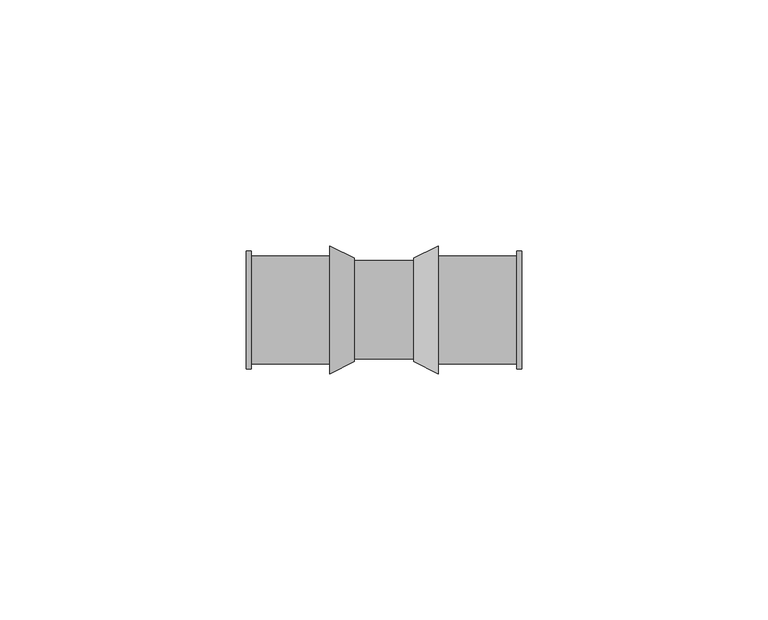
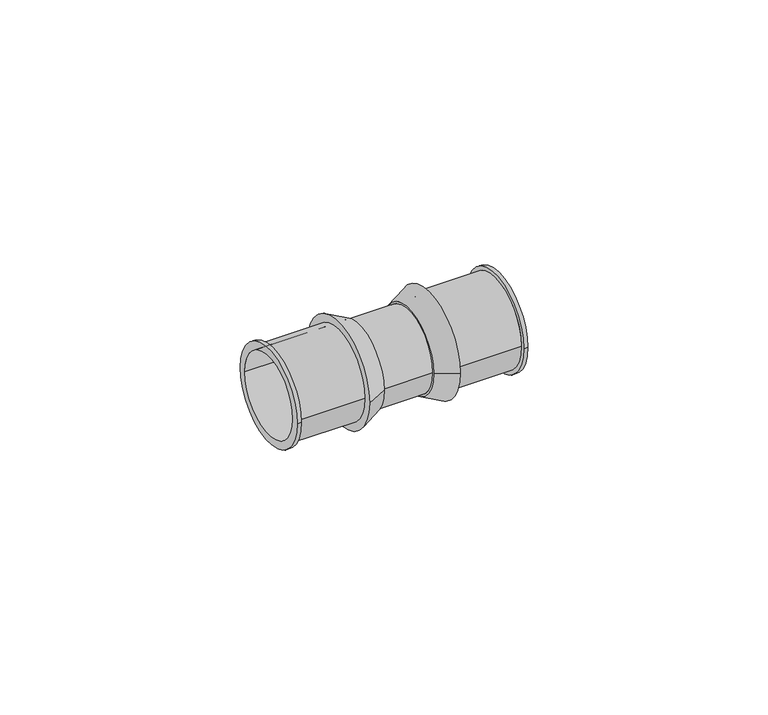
"""IFC4 building model written with IfcOpenShell, lengths in millimetres: pipe fitting geometry, SuperPipe_Coupling_SPressPlus : SuperPipe_Coupling_SPressPlus."""

from ifc_helpers import new_model, si_unit, point, frame, origin, origin_2d, place, context, project, spatial, polyline, circle_curve, trimmed, segment, composite_curve, outline, extrude, source, transform, mapped, element, save
from ifc_brep_helpers import plane_surface, cylinder_surface, revolved_surface, advanced_brep


def pipe_fitting_ede8caec(model_context):
    return source(origin(), model_context, "Body", "SolidModel", [
        advanced_brep(
        [(-28.0, -12.0, 0.0), (-28.0, 12.0, 0.0), (-28.0, -10.0, 0.0), (-28.0, 10.0, 0.0), (-11.0, -11.0, 0.0), (-11.0, 11.0, 0.0), (-11.0, -10.0, 0.0), (-11.0, 10.0, 0.0), (-27.0, -10.0, 0.0), (-27.0, 10.0, 0.0), (-27.0, 11.0, 0.0), (-27.0, -11.0, 0.0), (-27.0, -12.0, 0.0), (-27.0, 12.0, 0.0)],
        [
            (0, 1, circle_curve(frame((-28.0, 0.0, 0.0), z_axis=(-1.0, 0.0, 0.0), x_axis=(0.0, 1.0, 0.0)), 12.0)),
            (1, 0, circle_curve(frame((-28.0, 0.0, 0.0), z_axis=(-1.0, 0.0, 0.0), x_axis=(0.0, 1.0, 0.0)), 12.0)),
            (2, 3, circle_curve(frame((-28.0, 0.0, 0.0), z_axis=(1.0, 0.0, 0.0), x_axis=(0.0, 1.0, 0.0)), 10.0)),
            (3, 2, circle_curve(frame((-28.0, 0.0, 0.0), z_axis=(1.0, 0.0, 0.0), x_axis=(0.0, 1.0, 0.0)), 10.0)),
            (4, 5, circle_curve(frame((-11.0, 0.0, 0.0), z_axis=(1.0, 0.0, 0.0), x_axis=(0.0, 1.0, 0.0)), 11.0)),
            (5, 4, circle_curve(frame((-11.0, 0.0, 0.0), z_axis=(1.0, 0.0, 0.0), x_axis=(0.0, 1.0, 0.0)), 11.0)),
            (6, 7, circle_curve(frame((-11.0, 0.0, 0.0), z_axis=(-1.0, 0.0, 0.0), x_axis=(0.0, 1.0, 0.0)), 10.0)),
            (7, 6, circle_curve(frame((-11.0, 0.0, 0.0), z_axis=(-1.0, 0.0, 0.0), x_axis=(0.0, 1.0, 0.0)), 10.0)),
            (2, 8),
            (8, 6),
            (7, 9),
            (9, 3),
            (5, 10),
            (10, 11, circle_curve(frame((-27.0, 0.0, 0.0), z_axis=(1.0, 0.0, 0.0), x_axis=(0.0, 1.0, 0.0)), 11.0)),
            (11, 4),
            (11, 10, circle_curve(frame((-27.0, 0.0, 0.0), z_axis=(1.0, 0.0, 0.0), x_axis=(0.0, 1.0, 0.0)), 11.0)),
            (12, 13, circle_curve(frame((-27.0, 0.0, 0.0), z_axis=(1.0, 0.0, 0.0), x_axis=(0.0, 1.0, 0.0)), 12.0)),
            (13, 12, circle_curve(frame((-27.0, 0.0, 0.0), z_axis=(1.0, 0.0, 0.0), x_axis=(0.0, 1.0, 0.0)), 12.0)),
            (0, 12),
            (13, 1),
        ],
        [
            plane_surface(frame((-28.0, 0.0, 0.0), z_axis=(-1.0, 0.0, 0.0), x_axis=(0.0, 0.0, 1.0))),
            plane_surface(frame((-11.0, 0.0, 0.0), z_axis=(1.0, 0.0, 0.0), x_axis=(0.0, 0.0, 1.0))),
            revolved_surface(polyline([(-11.0, 10.0, 0.0), (-28.0, 10.0, 0.0)]), (-28.0, 0.0, 0.0), (1.0, 0.0, 0.0)),
            cylinder_surface(frame((-28.0, 0.0, 0.0), z_axis=(-1.0, 0.0, 0.0), x_axis=(0.0, 1.0, 0.0)), 11.0),
            plane_surface(frame((-27.0, 0.0, 0.0), z_axis=(1.0, 0.0, 0.0), x_axis=(0.0, 0.0, 1.0))),
            cylinder_surface(frame((-28.0, 0.0, 0.0), z_axis=(-1.0, 0.0, 0.0), x_axis=(0.0, 1.0, 0.0)), 12.0),
        ],
        [
            (0, [[1, 2], [3, 4]]),
            (1, [[5, 6], [7, 8]]),
            (2, [[-3, 9, 10, -8, 11, 12]]),
            (2, [[-4, -12, -11, -7, -10, -9]]),
            (3, [[-6, 13, 14, 15]]),
            (3, [[-5, -15, 16, -13]]),
            (4, [[17, 18], [-14, -16]]),
            (5, [[-1, 19, -18, 20]]),
            (5, [[-2, -20, -17, -19]]),
        ],
    ),
        advanced_brep(
        [(11.0, -11.0, 0.0), (11.0, 11.0, 0.0), (11.0, -10.0, 0.0), (11.0, 10.0, 0.0), (28.0, -12.0, 0.0), (28.0, 12.0, 0.0), (28.0, -10.0, 0.0), (28.0, 10.0, 0.0), (27.0, -11.0, 0.0), (27.0, 11.0, 0.0), (27.0, -10.0, 0.0), (27.0, 10.0, 0.0), (27.0, -12.0, 0.0), (27.0, 12.0, 0.0)],
        [
            (0, 1, circle_curve(frame((11.0, 0.0, 0.0), z_axis=(-1.0, 0.0, 0.0), x_axis=(0.0, 1.0, 0.0)), 11.0)),
            (1, 0, circle_curve(frame((11.0, 0.0, 0.0), z_axis=(-1.0, 0.0, 0.0), x_axis=(0.0, 1.0, 0.0)), 11.0)),
            (2, 3, circle_curve(frame((11.0, 0.0, 0.0), z_axis=(1.0, 0.0, 0.0), x_axis=(0.0, 1.0, 0.0)), 10.0)),
            (3, 2, circle_curve(frame((11.0, 0.0, 0.0), z_axis=(1.0, 0.0, 0.0), x_axis=(0.0, 1.0, 0.0)), 10.0)),
            (4, 5, circle_curve(frame((28.0, 0.0, 0.0), z_axis=(1.0, 0.0, 0.0), x_axis=(0.0, 1.0, 0.0)), 12.0)),
            (5, 4, circle_curve(frame((28.0, 0.0, 0.0), z_axis=(1.0, 0.0, 0.0), x_axis=(0.0, 1.0, 0.0)), 12.0)),
            (6, 7, circle_curve(frame((28.0, 0.0, 0.0), z_axis=(-1.0, 0.0, 0.0), x_axis=(0.0, 1.0, 0.0)), 10.0)),
            (7, 6, circle_curve(frame((28.0, 0.0, 0.0), z_axis=(-1.0, 0.0, 0.0), x_axis=(0.0, 1.0, 0.0)), 10.0)),
            (0, 8),
            (8, 9, circle_curve(frame((27.0, 0.0, 0.0), z_axis=(-1.0, 0.0, 0.0), x_axis=(0.0, 1.0, 0.0)), 11.0)),
            (9, 1),
            (9, 8, circle_curve(frame((27.0, 0.0, 0.0), z_axis=(-1.0, 0.0, 0.0), x_axis=(0.0, 1.0, 0.0)), 11.0)),
            (2, 10),
            (10, 6),
            (7, 11),
            (11, 3),
            (12, 13, circle_curve(frame((27.0, 0.0, 0.0), z_axis=(-1.0, 0.0, 0.0), x_axis=(0.0, 1.0, 0.0)), 12.0)),
            (13, 12, circle_curve(frame((27.0, 0.0, 0.0), z_axis=(-1.0, 0.0, 0.0), x_axis=(0.0, 1.0, 0.0)), 12.0)),
            (12, 4),
            (5, 13),
        ],
        [
            plane_surface(frame((11.0, 0.0, 0.0), z_axis=(-1.0, 0.0, 0.0), x_axis=(0.0, 0.0, 1.0))),
            plane_surface(frame((28.0, 0.0, 0.0), z_axis=(1.0, 0.0, 0.0), x_axis=(0.0, 0.0, 1.0))),
            cylinder_surface(frame((11.0, 0.0, 0.0), z_axis=(-1.0, 0.0, 0.0), x_axis=(0.0, 1.0, 0.0)), 11.0),
            revolved_surface(polyline([(28.0, 10.0, 0.0), (11.0, 10.0, 0.0)]), (11.0, 0.0, 0.0), (1.0, 0.0, 0.0)),
            plane_surface(frame((27.0, 0.0, 0.0), z_axis=(-1.0, 0.0, 0.0), x_axis=(0.0, 0.0, 1.0))),
            cylinder_surface(frame((27.0, 0.0, 0.0), z_axis=(-1.0, 0.0, 0.0), x_axis=(0.0, 1.0, 0.0)), 12.0),
        ],
        [
            (0, [[1, 2], [3, 4]]),
            (1, [[5, 6], [7, 8]]),
            (2, [[-1, 9, 10, 11]]),
            (2, [[-2, -11, 12, -9]]),
            (3, [[-3, 13, 14, -8, 15, 16]]),
            (3, [[-4, -16, -15, -7, -14, -13]]),
            (4, [[17, 18], [-10, -12]]),
            (5, [[-17, 19, -6, 20]]),
            (5, [[-18, -20, -5, -19]]),
        ],
    ),
        advanced_brep(
        [(11.0, -13.0, 0.0), (11.0, 13.0, 0.0), (11.0, 10.0, 0.0), (11.0, -10.0, 0.0), (6.0, -10.5, 0.0), (6.0, 10.5, 0.0), (6.0, -10.0, 0.0), (6.0, 10.0, 0.0)],
        [
            (0, 1, circle_curve(frame((11.0, 0.0, 0.0), z_axis=(1.0, 0.0, 0.0), x_axis=(0.0, -1.0, 0.0)), 13.0)),
            (1, 0, circle_curve(frame((11.0, 0.0, 0.0), z_axis=(1.0, 0.0, 0.0), x_axis=(0.0, 1.0, 0.0)), 13.0)),
            (2, 3, circle_curve(frame((11.0, 0.0, 0.0), z_axis=(-1.0, 0.0, 0.0), x_axis=(0.0, 1.0, 0.0)), 10.0)),
            (3, 2, circle_curve(frame((11.0, 0.0, 0.0), z_axis=(-1.0, 0.0, 0.0), x_axis=(0.0, 1.0, 0.0)), 10.0)),
            (4, 5, circle_curve(frame((6.0, 0.0, 0.0), z_axis=(-1.0, 0.0, 0.0), x_axis=(0.0, 1.0, 0.0)), 10.5)),
            (5, 4, circle_curve(frame((6.0, 0.0, 0.0), z_axis=(-1.0, 0.0, 0.0), x_axis=(0.0, -1.0, 0.0)), 10.5)),
            (6, 7, circle_curve(frame((6.0, 0.0, 0.0), z_axis=(1.0, 0.0, 0.0), x_axis=(0.0, 1.0, 0.0)), 10.0)),
            (7, 6, circle_curve(frame((6.0, 0.0, 0.0), z_axis=(1.0, 0.0, 0.0), x_axis=(0.0, 1.0, 0.0)), 10.0)),
            (0, 4),
            (5, 1),
            (2, 7),
            (6, 3),
        ],
        [
            plane_surface(frame((11.0, 0.0, 0.0), z_axis=(1.0, 0.0, 0.0), x_axis=(0.0, 0.0, -1.0))),
            plane_surface(frame((6.0, 0.0, 0.0), z_axis=(-1.0, 0.0, 0.0), x_axis=(0.0, 0.0, -1.0))),
            revolved_surface(polyline([(6.0, 10.5, 0.0), (11.0, 13.0, 0.0)]), (-15.0, 0.0, 0.0), (1.0, 0.0, 0.0)),
            revolved_surface(polyline([(6.0, -10.5, 0.0), (11.0, -13.0, 0.0)]), (-15.0, 0.0, 0.0), (1.0, 0.0, 0.0)),
            revolved_surface(polyline([(11.0, 10.0, 0.0), (6.0, 10.0, 0.0)]), (6.0, 0.0, 0.0), (1.0, 0.0, 0.0)),
        ],
        [
            (0, [[1, 2], [3, 4]]),
            (1, [[5, 6], [7, 8]]),
            (2, [[-1, 9, -6, 10]]),
            (3, [[-2, -10, -5, -9]]),
            (4, [[11, -7, 12, -3]]),
            (4, [[-11, -4, -12, -8]]),
        ],
    ),
        advanced_brep(
        [(-6.0, -10.5, 0.0), (-6.0, 10.5, 0.0), (-6.0, 10.0, 0.0), (-6.0, -10.0, 0.0), (-11.0, -13.0, 0.0), (-11.0, 13.0, 0.0), (-11.0, -10.0, 0.0), (-11.0, 10.0, 0.0)],
        [
            (0, 1, circle_curve(frame((-6.0, 0.0, 0.0), z_axis=(1.0, 0.0, 0.0), x_axis=(0.0, -1.0, 0.0)), 10.5)),
            (1, 0, circle_curve(frame((-6.0, 0.0, 0.0), z_axis=(1.0, 0.0, 0.0), x_axis=(0.0, 1.0, 0.0)), 10.5)),
            (2, 3, circle_curve(frame((-6.0, 0.0, 0.0), z_axis=(-1.0, 0.0, 0.0), x_axis=(0.0, 1.0, 0.0)), 10.0)),
            (3, 2, circle_curve(frame((-6.0, 0.0, 0.0), z_axis=(-1.0, 0.0, 0.0), x_axis=(0.0, 1.0, 0.0)), 10.0)),
            (4, 5, circle_curve(frame((-11.0, 0.0, 0.0), z_axis=(-1.0, 0.0, 0.0), x_axis=(0.0, 1.0, 0.0)), 13.0)),
            (5, 4, circle_curve(frame((-11.0, 0.0, 0.0), z_axis=(-1.0, 0.0, 0.0), x_axis=(0.0, -1.0, 0.0)), 13.0)),
            (6, 7, circle_curve(frame((-11.0, 0.0, 0.0), z_axis=(1.0, 0.0, 0.0), x_axis=(0.0, 1.0, 0.0)), 10.0)),
            (7, 6, circle_curve(frame((-11.0, 0.0, 0.0), z_axis=(1.0, 0.0, 0.0), x_axis=(0.0, 1.0, 0.0)), 10.0)),
            (0, 4),
            (5, 1),
            (2, 7),
            (6, 3),
        ],
        [
            plane_surface(frame((-6.0, 0.0, 0.0), z_axis=(1.0, 0.0, 0.0), x_axis=(0.0, 0.0, -1.0))),
            plane_surface(frame((-11.0, 0.0, 0.0), z_axis=(-1.0, 0.0, 0.0), x_axis=(0.0, 0.0, -1.0))),
            revolved_surface(polyline([(-6.0, -10.5, 0.0), (-11.0, -13.0, 0.0)]), (15.0, 0.0, 0.0), (-1.0, 0.0, 0.0)),
            revolved_surface(polyline([(-6.0, 10.5, 0.0), (-11.0, 13.0, 0.0)]), (15.0, 0.0, 0.0), (-1.0, 0.0, 0.0)),
            revolved_surface(polyline([(-6.0, 10.0, 0.0), (-11.0, 10.0, 0.0)]), (-11.0, 0.0, 0.0), (1.0, 0.0, 0.0)),
        ],
        [
            (0, [[1, 2], [3, 4]]),
            (1, [[5, 6], [7, 8]]),
            (2, [[-1, 9, -6, 10]]),
            (3, [[-2, -10, -5, -9]]),
            (4, [[11, -7, 12, -3]]),
            (4, [[-11, -4, -12, -8]]),
        ],
    ),
        extrude(outline(composite_curve([segment(trimmed(circle_curve(origin_2d(), 10.0), [point((-10.0, 0.0))], [point((10.0, 0.0))], False, "CARTESIAN"), True, "CONTINUOUS"), segment(trimmed(circle_curve(origin_2d(), 10.0), [point((10.0, 0.0))], [point((-10.0, 0.0))], False, "CARTESIAN"), True, "CONTINUOUS")], self_intersect=False)), frame((-6.0, 0.0, 0.0), z_axis=(1.0, 0.0, 0.0), x_axis=(0.0, 1.0, 0.0)), (0.0, 0.0, 1.0), 12.0),
    ])


if __name__ == "__main__":
    model = new_model("IFC4")
    model_context = context("Model", 3, world=origin())
    ifc_project = project(units=[si_unit("LENGTHUNIT", "METRE", prefix="MILLI")], contexts=[model_context])
    site = spatial("IfcSite", under=ifc_project)
    building = spatial("IfcBuilding", under=site)
    placement = place(None, origin())
    pipe_fitting_shape = pipe_fitting_ede8caec(model_context)
    element("IfcPipeFitting", 1, ObjectType="SuperPipe_Coupling_SPressPlus : SuperPipe_Coupling_SPressPlus", at=placement, inside=building, context=model_context, shape_type="MappedRepresentation", body=[
        mapped(pipe_fitting_shape, transform((0.0, 0.0, 0.0), x_axis=(1.0, 0.0, 0.0), y_axis=(0.0, 1.0, 0.0), z_axis=(0.0, 0.0, 1.0))),
    ])
    save(model, "model.ifc")
